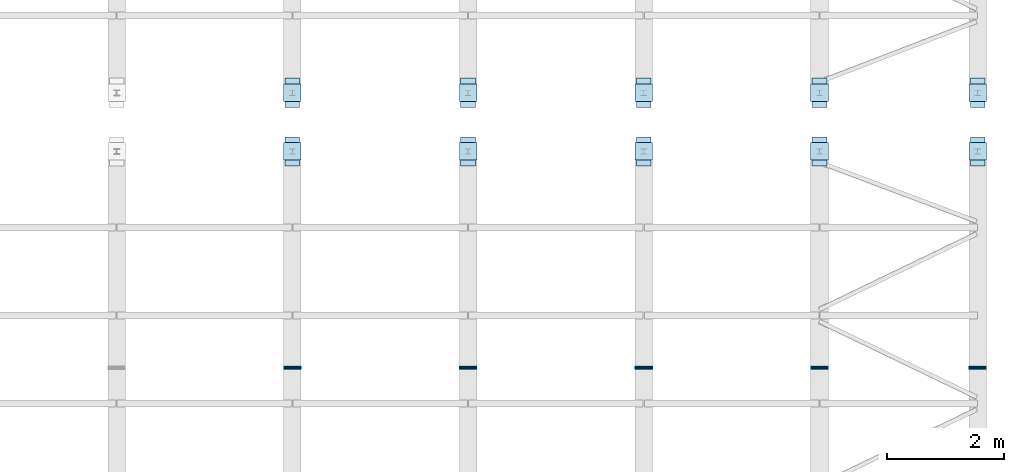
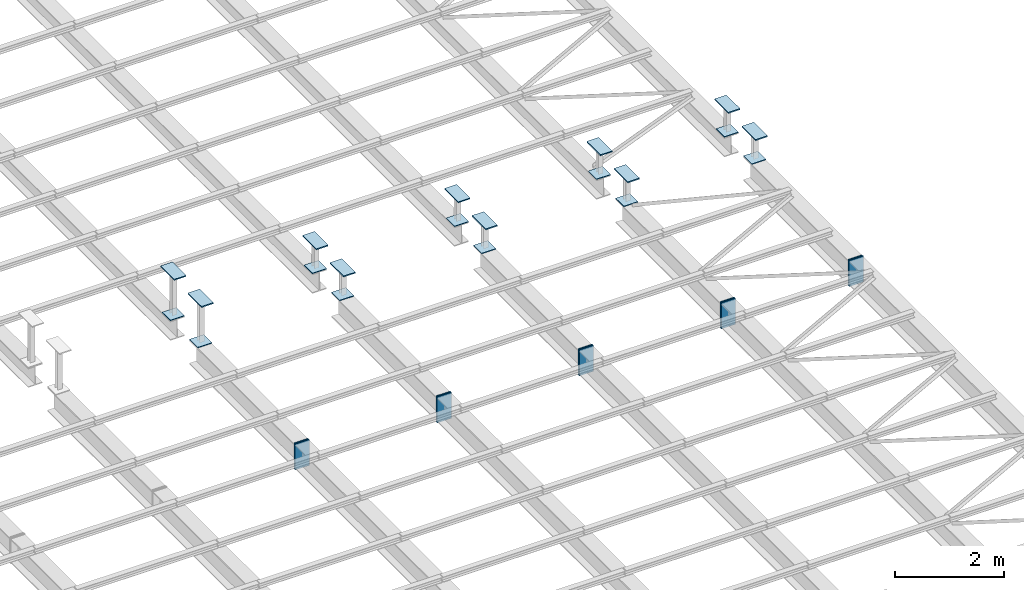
# One storey, part 135 of 139: 30 plates.
"""IFC2X3 building model written with IfcOpenShell, lengths in metres."""

import ifcopenshell
import ifcopenshell.guid

model = None  # the IFC model being written
_history = None  # IfcOwnerHistory: only IFC2X3 demands one
_inside = {}  # id of a spatial element -> (the spatial element, [elements in it])
_under = {}  # id of a project, library or spatial element -> (it, [spatial elements below it])
_declared = {}  # id of a project -> (the project, [libraries it declares])
_typed = {}  # id of a type object -> (the type object, [elements of that type])
_made_of = {}  # id of a material, layer set ... -> (it, [elements and type objects made of it])


def new_model(schema):
    """Start an empty IFC model of exactly this schema.

    Asked for "IFC4X3", IfcOpenShell would pick the latest addendum, in which some entities
    have other attributes; the version numbers below select the first issue.
    IFC2X3 requires an IfcOwnerHistory on every rooted entity: one is made here for all.
    """
    global model, _history
    if schema == "IFC4X3":
        model = ifcopenshell.file(schema_version=(4, 3, 0, 0))
    else:
        model = ifcopenshell.file(schema=schema)
    _inside.clear()
    _under.clear()
    _declared.clear()
    _typed.clear()
    _made_of.clear()
    _history = None
    if model.schema == "IFC2X3":
        org = make("IfcOrganization", Name="unknown")
        user = make(
            "IfcPersonAndOrganization",
            ThePerson=make("IfcPerson", FamilyName="unknown"),
            TheOrganization=org,
        )
        app = make(
            "IfcApplication",
            ApplicationDeveloper=org,
            Version="unknown",
            ApplicationFullName="unknown",
            ApplicationIdentifier="unknown",
        )
        _history = make(
            "IfcOwnerHistory",
            OwningUser=user,
            OwningApplication=app,
            ChangeAction="ADDED",
            CreationDate=0,
        )
    return model


def make(cls, **values):
    """One entity of the class cls with the attributes given. An attribute that is None is left unset."""
    return model.create_entity(
        cls, **{name: value for name, value in values.items() if value is not None}
    )


def entity(cls, *values):
    """Any entity or typed value of the class cls, its attributes in the order of the schema. None: left unset."""
    e = model.create_entity(cls)
    for i, value in enumerate(values):
        if value is not None:
            e[i] = value
    return e


def rooted(cls, **values):
    """An entity with a GlobalId (a new one), such as an element, a storey or a relation."""
    return make(cls, GlobalId=ifcopenshell.guid.new(), OwnerHistory=_history, **values)


def si_unit(unit_type, name, prefix=None):
    """IfcSIUnit, for example si_unit("LENGTHUNIT", "METRE", prefix="MILLI")."""
    return make("IfcSIUnit", UnitType=unit_type, Prefix=prefix, Name=name)


def converted_unit(unit_type, name, factor, base, dimensions=None, offset=None):
    """IfcConversionBasedUnit, such as the inch: factor (a typed value) times the base unit."""
    return make(
        "IfcConversionBasedUnit"
        if offset is None
        else "IfcConversionBasedUnitWithOffset",
        ConversionOffset=offset,
        Dimensions=None
        if dimensions is None
        else entity("IfcDimensionalExponents", *dimensions),
        UnitType=unit_type,
        Name=name,
        ConversionFactor=make(
            "IfcMeasureWithUnit", ValueComponent=factor, UnitComponent=base
        ),
    )


def derived_unit(unit_type, elements):
    """IfcDerivedUnit: a product of units, each with its exponent."""
    return make(
        "IfcDerivedUnit",
        Elements=[
            make("IfcDerivedUnitElement", Unit=unit, Exponent=power)
            for unit, power in elements
        ],
        UnitType=unit_type,
    )


def assignment(units):
    """IfcUnitAssignment: the units of a project."""
    return None if units is None else make("IfcUnitAssignment", Units=units)


def point(xyz):
    """IfcCartesianPoint."""
    return None if xyz is None else make("IfcCartesianPoint", Coordinates=xyz)


def direction(xyz):
    """IfcDirection."""
    return None if xyz is None else make("IfcDirection", DirectionRatios=xyz)


def frame(location, z_axis=None, x_axis=None):
    """IfcAxis2Placement3D, a coordinate frame: its origin and axes. An axis left out is left unset."""
    return make(
        "IfcAxis2Placement3D",
        Location=point(location),
        Axis=direction(z_axis),
        RefDirection=direction(x_axis),
    )


def origin():
    """The frame at (0, 0, 0) with its axes left unset."""
    return frame((0.0, 0.0, 0.0))


def place(relative_to, where):
    """IfcLocalPlacement: puts the frame where relative to a parent placement (None: the world)."""
    return make(
        "IfcLocalPlacement", PlacementRelTo=relative_to, RelativePlacement=where
    )


def context(
    kind, dimensions, precision=None, world=None, true_north=None, identifier=None
):
    """IfcGeometricRepresentationContext, for example the 3D "Model" context."""
    return make(
        "IfcGeometricRepresentationContext",
        ContextIdentifier=identifier,
        ContextType=kind,
        CoordinateSpaceDimension=dimensions,
        Precision=precision,
        WorldCoordinateSystem=world,
        TrueNorth=true_north,
    )


def subcontext(parent, identifier, kind, view, scale=None):
    """IfcGeometricRepresentationSubContext, for example "Body" below "Model"."""
    return make(
        "IfcGeometricRepresentationSubContext",
        ContextIdentifier=identifier,
        ContextType=kind,
        ParentContext=parent,
        TargetScale=scale,
        TargetView=view,
    )


def project(units=None, contexts=None):
    """IfcProject with its units and contexts."""
    return rooted(
        "IfcProject",
        Name="project",
        RepresentationContexts=contexts,
        UnitsInContext=assignment(units),
    )


def spatial(cls, under=None, at=None, **own):
    """A site, building, storey or space (cls), placed at a placement, below another one or the project."""
    s = rooted(cls, ObjectPlacement=at, **own)
    if under is not None:
        _under.setdefault(under.id(), (under, []))[1].append(s)
    return s


def faces_of(points, faces, orient=None, outer=None):
    """IfcFace entities. A face is a list of loops; a loop is a list of indices into points, from 0.

    orient and outer hold one flag for each loop. By default every Orientation is true, the
    first loop of a face is its IfcFaceOuterBound and the others are IfcFaceBound.
    """
    made = []
    for i, loops in enumerate(faces):
        bounds = []
        for j, loop in enumerate(loops):
            is_outer = j == 0 if outer is None else outer[i][j]
            bounds.append(
                make(
                    "IfcFaceOuterBound" if is_outer else "IfcFaceBound",
                    Bound=make("IfcPolyLoop", Polygon=[points[k] for k in loop]),
                    Orientation=True if orient is None else orient[i][j],
                )
            )
        made.append(make("IfcFace", Bounds=bounds))
    return made


def faceted_brep(points, faces, orient=None, outer=None, voids=None):
    """IfcFacetedBrep: a solid bounded by flat faces; with voids (closed shells), ...WithVoids."""
    shared = [point(p) for p in points]
    hull = make("IfcClosedShell", CfsFaces=faces_of(shared, faces, orient, outer))
    if voids is None:
        return make("IfcFacetedBrep", Outer=hull)
    return make(
        "IfcFacetedBrepWithVoids",
        Outer=hull,
        Voids=[
            make(cls, CfsFaces=faces_of(shared, fs, o, b)) for cls, fs, o, b in voids
        ],
    )


def shape(context_of_items, identifier, shape_type, items):
    """IfcShapeRepresentation: the items that make up one representation, for example the "Body"."""
    return make(
        "IfcShapeRepresentation",
        ContextOfItems=context_of_items,
        RepresentationIdentifier=identifier,
        RepresentationType=shape_type,
        Items=items,
    )


def material(Name=None, Category=None):
    """IfcMaterial."""
    return make("IfcMaterial", Name=Name, Category=Category)


def made_of(thing, what):
    """Note that an element or type object is made of a material, layer set ...; save() writes the relation."""
    if what is not None:
        _made_of.setdefault(what.id(), (what, []))[1].append(thing)
    return thing


def element(
    cls,
    number,
    at=None,
    inside=None,
    cuts=None,
    type_object=None,
    material=None,
    context=None,
    identifier="Body",
    shape_type=None,
    held_by="IfcProductDefinitionShape",
    body=None,
    shapes=None,
    **own,
):
    """One element of the class cls, such as IfcWall. Its Tag is "e" and its number.

    at: its placement. inside: the storey or other place that contains it. cuts: it is an
    opening in that element (IfcRelVoidsElement). A single representation is given by context,
    identifier, shape_type and body (its items); several are given by shapes. held_by: the class
    of the entity that holds the representations. save() writes the other relations.
    """
    e = rooted(cls, Tag="e%d" % number, ObjectPlacement=at, **own)
    if body is not None:
        shapes = [shape(context, identifier, shape_type, body)]
    if shapes is not None:
        e.Representation = make(held_by, Representations=shapes)
    if inside is not None:
        _inside.setdefault(inside.id(), (inside, []))[1].append(e)
    if cuts is not None:
        rooted(
            "IfcRelVoidsElement", RelatingBuildingElement=cuts, RelatedOpeningElement=e
        )
    if type_object is not None:
        _typed.setdefault(type_object.id(), (type_object, []))[1].append(e)
    return made_of(e, material)


def aggregate(whole, parts):
    """IfcRelAggregates: a whole, such as a stair, and the parts it consists of."""
    return rooted("IfcRelAggregates", RelatingObject=whole, RelatedObjects=parts)


def save(model, path):
    """Write the relations noted so far, then the file.

    IfcRelAggregates (storeys below a building ...), IfcRelContainedInSpatialStructure (elements
    in a storey), IfcRelDefinesByType, IfcRelAssociatesMaterial and IfcRelDeclares: one each for
    every whole, place, type object, material and project.
    """
    for whole, parts in _under.values():
        aggregate(whole, parts)
    for where, things in _inside.values():
        rooted(
            "IfcRelContainedInSpatialStructure",
            RelatedElements=things,
            RelatingStructure=where,
        )
    for kind, things in _typed.values():
        rooted("IfcRelDefinesByType", RelatedObjects=things, RelatingType=kind)
    for what, things in _made_of.values():
        rooted("IfcRelAssociatesMaterial", RelatedObjects=things, RelatingMaterial=what)
    for by, libraries in _declared.values():
        rooted("IfcRelDeclares", RelatingContext=by, RelatedDefinitions=libraries)
    model.write(path)


model = new_model("IFC2X3")

# Units and contexts
model_context = context("Model", 3, precision=1e-05, world=origin())
body_context = subcontext(model_context, "Body", "Model", "MODEL_VIEW")
ifc_project = project(units=[si_unit("LENGTHUNIT", "METRE"), si_unit("AREAUNIT", "SQUARE_METRE"), si_unit("VOLUMEUNIT", "CUBIC_METRE"), si_unit("MASSUNIT", "GRAM", prefix="KILO"), converted_unit("PLANEANGLEUNIT", "DEGREE", entity("IfcPlaneAngleMeasure", 0.0174532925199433), si_unit("PLANEANGLEUNIT", "RADIAN"), dimensions=[0, 0, 0, 0, 0, 0, 0]), derived_unit("THERMALTRANSMITTANCEUNIT", [(si_unit("POWERUNIT", "WATT"), 1), (si_unit("THERMODYNAMICTEMPERATUREUNIT", "KELVIN"), -1), (si_unit("LENGTHUNIT", "METRE"), -2)]), derived_unit("VOLUMETRICFLOWRATEUNIT", [(si_unit("LENGTHUNIT", "METRE"), 3), (converted_unit("TIMEUNIT", "hour", entity("IfcTimeMeasure", 3600.0), si_unit("TIMEUNIT", "SECOND"), dimensions=[0, 0, 1, 0, 0, 0, 0]), -1), (si_unit("LENGTHUNIT", "METRE"), -1)])], contexts=[model_context])

# Site, building, storey
site_placement = place(None, origin())
site = spatial("IfcSite", under=ifc_project, at=site_placement, Name="TWP_Speiseverteilzentrum SBW VZ II", CompositionType="ELEMENT")
building_placement = place(site_placement, origin())
building = spatial("IfcBuilding", under=site, at=building_placement, Name="Speiseverteilzentrum SBW VZ II", CompositionType="ELEMENT")
storey_placement = place(building_placement, frame((0.0, 0.0, 7.1307)))
storey = spatial("IfcBuildingStorey", under=building, at=storey_placement, Name="Wartung_FFB", CompositionType="ELEMENT", Elevation=7.1307)

# Plates
ifc_material_1 = material(Name="S355")
plate_1_placement = place(storey_placement, frame((120.600000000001, 66.1852526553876, -0.75)))
element("IfcPlate", 1, at=plate_1_placement, inside=storey, material=ifc_material_1, Name="Stirnplatte", context=body_context, shape_type="Brep", body=[
    faceted_brep([(0.0, 0.025, 0.0), (0.3, 0.025, 0.0), (0.3, 0.025, 0.58), (0.0, 0.025, 0.58), (0.3, 0.0, 0.0), (0.3, 0.0, 0.58), (0.0, 0.0, 0.0), (0.0, 0.0, 0.58)], [[[0, 1, 2, 3]], [[1, 4, 5, 2]], [[4, 6, 7, 5]], [[6, 0, 3, 7]], [[7, 3, 2, 5]], [[0, 6, 4, 1]]], orient=[[False], [False], [False], [False], [False], [False]]),
])
ifc_material_2 = material(Name="S355")
plate_2_placement = place(storey_placement, frame((120.600000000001, 66.2102526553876, -0.75)))
element("IfcPlate", 2, at=plate_2_placement, inside=storey, material=ifc_material_2, Name="Stirnplatte", context=body_context, shape_type="Brep", body=[
    faceted_brep([(0.0, 0.025, 0.0), (0.3, 0.025, 0.0), (0.3, 0.025, 0.58), (0.0, 0.025, 0.58), (0.3, 0.0, 0.0), (0.3, 0.0, 0.58), (0.0, 0.0, 0.0), (0.0, 0.0, 0.58)], [[[0, 1, 2, 3]], [[1, 4, 5, 2]], [[4, 6, 7, 5]], [[6, 0, 3, 7]], [[7, 3, 2, 5]], [[0, 6, 4, 1]]], orient=[[False], [False], [False], [False], [False], [False]]),
])
ifc_material_3 = material(Name="S355")
plate_3_placement = place(storey_placement, frame((117.900000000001, 66.1852526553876, -0.75)))
element("IfcPlate", 3, at=plate_3_placement, inside=storey, material=ifc_material_3, Name="Stirnplatte", context=body_context, shape_type="Brep", body=[
    faceted_brep([(0.0, 0.025, 0.0), (0.3, 0.025, 0.0), (0.3, 0.025, 0.58), (0.0, 0.025, 0.58), (0.3, 0.0, 0.0), (0.3, 0.0, 0.58), (0.0, 0.0, 0.0), (0.0, 0.0, 0.58)], [[[0, 1, 2, 3]], [[1, 4, 5, 2]], [[4, 6, 7, 5]], [[6, 0, 3, 7]], [[7, 3, 2, 5]], [[0, 6, 4, 1]]], orient=[[False], [False], [False], [False], [False], [False]]),
])
ifc_material_4 = material(Name="S355")
plate_4_placement = place(storey_placement, frame((117.900000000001, 66.2102526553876, -0.75)))
element("IfcPlate", 4, at=plate_4_placement, inside=storey, material=ifc_material_4, Name="Stirnplatte", context=body_context, shape_type="Brep", body=[
    faceted_brep([(0.0, 0.025, 0.0), (0.3, 0.025, 0.0), (0.3, 0.025, 0.58), (0.0, 0.025, 0.58), (0.3, 0.0, 0.0), (0.3, 0.0, 0.58), (0.0, 0.0, 0.0), (0.0, 0.0, 0.58)], [[[0, 1, 2, 3]], [[1, 4, 5, 2]], [[4, 6, 7, 5]], [[6, 0, 3, 7]], [[7, 3, 2, 5]], [[0, 6, 4, 1]]], orient=[[False], [False], [False], [False], [False], [False]]),
])
ifc_material_5 = material(Name="S355")
plate_5_placement = place(storey_placement, frame((114.900000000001, 66.1852526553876, -0.75)))
element("IfcPlate", 5, at=plate_5_placement, inside=storey, material=ifc_material_5, Name="Stirnplatte", context=body_context, shape_type="Brep", body=[
    faceted_brep([(0.0, 0.025, 0.0), (0.3, 0.025, 0.0), (0.3, 0.025, 0.58), (0.0, 0.025, 0.58), (0.3, 0.0, 0.0), (0.3, 0.0, 0.58), (0.0, 0.0, 0.0), (0.0, 0.0, 0.58)], [[[0, 1, 2, 3]], [[1, 4, 5, 2]], [[4, 6, 7, 5]], [[6, 0, 3, 7]], [[7, 3, 2, 5]], [[0, 6, 4, 1]]], orient=[[False], [False], [False], [False], [False], [False]]),
])
ifc_material_6 = material(Name="S355")
plate_6_placement = place(storey_placement, frame((114.900000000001, 66.2102526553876, -0.75)))
element("IfcPlate", 6, at=plate_6_placement, inside=storey, material=ifc_material_6, Name="Stirnplatte", context=body_context, shape_type="Brep", body=[
    faceted_brep([(0.0, 0.025, 0.0), (0.3, 0.025, 0.0), (0.3, 0.025, 0.58), (0.0, 0.025, 0.58), (0.3, 0.0, 0.0), (0.3, 0.0, 0.58), (0.0, 0.0, 0.0), (0.0, 0.0, 0.58)], [[[0, 1, 2, 3]], [[1, 4, 5, 2]], [[4, 6, 7, 5]], [[6, 0, 3, 7]], [[7, 3, 2, 5]], [[0, 6, 4, 1]]], orient=[[False], [False], [False], [False], [False], [False]]),
])
ifc_material_7 = material(Name="S355")
plate_7_placement = place(storey_placement, frame((111.900000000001, 66.1852526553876, -0.75)))
element("IfcPlate", 7, at=plate_7_placement, inside=storey, material=ifc_material_7, Name="Stirnplatte", context=body_context, shape_type="Brep", body=[
    faceted_brep([(0.0, 0.025, 0.0), (0.3, 0.025, 0.0), (0.3, 0.025, 0.58), (0.0, 0.025, 0.58), (0.3, 0.0, 0.0), (0.3, 0.0, 0.58), (0.0, 0.0, 0.0), (0.0, 0.0, 0.58)], [[[0, 1, 2, 3]], [[1, 4, 5, 2]], [[4, 6, 7, 5]], [[6, 0, 3, 7]], [[7, 3, 2, 5]], [[0, 6, 4, 1]]], orient=[[False], [False], [False], [False], [False], [False]]),
])
ifc_material_8 = material(Name="S355")
plate_8_placement = place(storey_placement, frame((111.900000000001, 66.2102526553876, -0.75)))
element("IfcPlate", 8, at=plate_8_placement, inside=storey, material=ifc_material_8, Name="Stirnplatte", context=body_context, shape_type="Brep", body=[
    faceted_brep([(0.0, 0.025, 0.0), (0.3, 0.025, 0.0), (0.3, 0.025, 0.58), (0.0, 0.025, 0.58), (0.3, 0.0, 0.0), (0.3, 0.0, 0.58), (0.0, 0.0, 0.0), (0.0, 0.0, 0.58)], [[[0, 1, 2, 3]], [[1, 4, 5, 2]], [[4, 6, 7, 5]], [[6, 0, 3, 7]], [[7, 3, 2, 5]], [[0, 6, 4, 1]]], orient=[[False], [False], [False], [False], [False], [False]]),
])
ifc_material_9 = material(Name="S355")
plate_9_placement = place(storey_placement, frame((108.900000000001, 66.1852526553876, -0.75)))
element("IfcPlate", 9, at=plate_9_placement, inside=storey, material=ifc_material_9, Name="Stirnplatte", context=body_context, shape_type="Brep", body=[
    faceted_brep([(0.0, 0.025, 0.0), (0.3, 0.025, 0.0), (0.3, 0.025, 0.58), (0.0, 0.025, 0.58), (0.3, 0.0, 0.0), (0.3, 0.0, 0.58), (0.0, 0.0, 0.0), (0.0, 0.0, 0.58)], [[[0, 1, 2, 3]], [[1, 4, 5, 2]], [[4, 6, 7, 5]], [[6, 0, 3, 7]], [[7, 3, 2, 5]], [[0, 6, 4, 1]]], orient=[[False], [False], [False], [False], [False], [False]]),
])
ifc_material_10 = material(Name="S355")
plate_10_placement = place(storey_placement, frame((108.900000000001, 66.2102526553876, -0.75)))
element("IfcPlate", 10, at=plate_10_placement, inside=storey, material=ifc_material_10, Name="Stirnplatte", context=body_context, shape_type="Brep", body=[
    faceted_brep([(0.0, 0.025, 0.0), (0.3, 0.025, 0.0), (0.3, 0.025, 0.58), (0.0, 0.025, 0.58), (0.3, 0.0, 0.0), (0.3, 0.0, 0.58), (0.0, 0.0, 0.0), (0.0, 0.0, 0.58)], [[[0, 1, 2, 3]], [[1, 4, 5, 2]], [[4, 6, 7, 5]], [[6, 0, 3, 7]], [[7, 3, 2, 5]], [[0, 6, 4, 1]]], orient=[[False], [False], [False], [False], [False], [False]]),
])
ifc_material_11 = material(Name="S235")
plate_11_placement = place(storey_placement, frame((108.900000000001, 69.7522526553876, -0.189999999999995)))
element("IfcPlate", 11, at=plate_11_placement, inside=storey, material=ifc_material_11, Name="Verbindungsstück", context=body_context, shape_type="Brep", body=[
    faceted_brep([(0.0, 0.0, 0.015), (0.0, 0.0, 0.0), (0.0, 0.3, 0.0), (0.0, 0.3, 0.015), (0.3, 0.0, 0.015), (0.3, 0.0, 0.0), (0.3, 0.3, 0.015), (0.3, 0.3, 0.0)], [[[0, 1, 2, 3]], [[0, 4, 5, 1]], [[4, 6, 7, 5]], [[6, 3, 2, 7]], [[6, 4, 0, 3]], [[2, 1, 5, 7]]], orient=[[False], [False], [False], [False], [False], [False]]),
])
ifc_material_12 = material(Name="S235")
plate_12_placement = place(storey_placement, frame((111.900000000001, 69.7522526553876, -0.189999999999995)))
element("IfcPlate", 12, at=plate_12_placement, inside=storey, material=ifc_material_12, Name="Verbindungsstück", context=body_context, shape_type="Brep", body=[
    faceted_brep([(0.0, 0.0, 0.015), (0.0, 0.0, 0.0), (0.0, 0.3, 0.0), (0.0, 0.3, 0.015), (0.3, 0.0, 0.015), (0.3, 0.0, 0.0), (0.3, 0.3, 0.015), (0.3, 0.3, 0.0)], [[[0, 1, 2, 3]], [[0, 4, 5, 1]], [[4, 6, 7, 5]], [[6, 3, 2, 7]], [[6, 4, 0, 3]], [[2, 1, 5, 7]]], orient=[[False], [False], [False], [False], [False], [False]]),
])
ifc_material_13 = material(Name="S235")
plate_13_placement = place(storey_placement, frame((114.900000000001, 69.7522526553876, -0.189999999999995)))
element("IfcPlate", 13, at=plate_13_placement, inside=storey, material=ifc_material_13, Name="Verbindungsstück", context=body_context, shape_type="Brep", body=[
    faceted_brep([(0.0, 0.0, 0.015), (0.0, 0.0, 0.0), (0.0, 0.3, 0.0), (0.0, 0.3, 0.015), (0.3, 0.0, 0.015), (0.3, 0.0, 0.0), (0.3, 0.3, 0.015), (0.3, 0.3, 0.0)], [[[0, 1, 2, 3]], [[0, 4, 5, 1]], [[4, 6, 7, 5]], [[6, 3, 2, 7]], [[6, 4, 0, 3]], [[2, 1, 5, 7]]], orient=[[False], [False], [False], [False], [False], [False]]),
])
ifc_material_14 = material(Name="S235")
plate_14_placement = place(storey_placement, frame((117.900000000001, 69.7522526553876, -0.189999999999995)))
element("IfcPlate", 14, at=plate_14_placement, inside=storey, material=ifc_material_14, Name="Verbindungsstück", context=body_context, shape_type="Brep", body=[
    faceted_brep([(0.0, 0.0, 0.015), (0.0, 0.0, 0.0), (0.0, 0.3, 0.0), (0.0, 0.3, 0.015), (0.3, 0.0, 0.015), (0.3, 0.0, 0.0), (0.3, 0.3, 0.015), (0.3, 0.3, 0.0)], [[[0, 1, 2, 3]], [[0, 4, 5, 1]], [[4, 6, 7, 5]], [[6, 3, 2, 7]], [[6, 4, 0, 3]], [[2, 1, 5, 7]]], orient=[[False], [False], [False], [False], [False], [False]]),
])
ifc_material_15 = material(Name="S235")
plate_15_placement = place(storey_placement, frame((108.900000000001, 70.7522526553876, -0.19)))
element("IfcPlate", 15, at=plate_15_placement, inside=storey, material=ifc_material_15, Name="Verbindungsstück", context=body_context, shape_type="Brep", body=[
    faceted_brep([(0.0, 0.0, 0.015), (0.0, 0.0, 0.0), (0.0, 0.3, 0.0), (0.0, 0.3, 0.015), (0.3, 0.0, 0.015), (0.3, 0.0, 0.0), (0.3, 0.3, 0.015), (0.3, 0.3, 0.0)], [[[0, 1, 2, 3]], [[0, 4, 5, 1]], [[4, 6, 7, 5]], [[6, 3, 2, 7]], [[6, 4, 0, 3]], [[2, 1, 5, 7]]], orient=[[False], [False], [False], [False], [False], [False]]),
])
ifc_material_16 = material(Name="S235")
plate_16_placement = place(storey_placement, frame((111.900000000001, 70.7522526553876, -0.19)))
element("IfcPlate", 16, at=plate_16_placement, inside=storey, material=ifc_material_16, Name="Verbindungsstück", context=body_context, shape_type="Brep", body=[
    faceted_brep([(0.0, 0.0, 0.015), (0.0, 0.0, 0.0), (0.0, 0.3, 0.0), (0.0, 0.3, 0.015), (0.3, 0.0, 0.015), (0.3, 0.0, 0.0), (0.3, 0.3, 0.015), (0.3, 0.3, 0.0)], [[[0, 1, 2, 3]], [[0, 4, 5, 1]], [[4, 6, 7, 5]], [[6, 3, 2, 7]], [[6, 4, 0, 3]], [[2, 1, 5, 7]]], orient=[[False], [False], [False], [False], [False], [False]]),
])
ifc_material_17 = material(Name="S235")
plate_17_placement = place(storey_placement, frame((114.900000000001, 70.7522526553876, -0.19)))
element("IfcPlate", 17, at=plate_17_placement, inside=storey, material=ifc_material_17, Name="Verbindungsstück", context=body_context, shape_type="Brep", body=[
    faceted_brep([(0.0, 0.0, 0.015), (0.0, 0.0, 0.0), (0.0, 0.3, 0.0), (0.0, 0.3, 0.015), (0.3, 0.0, 0.015), (0.3, 0.0, 0.0), (0.3, 0.3, 0.015), (0.3, 0.3, 0.0)], [[[0, 1, 2, 3]], [[0, 4, 5, 1]], [[4, 6, 7, 5]], [[6, 3, 2, 7]], [[6, 4, 0, 3]], [[2, 1, 5, 7]]], orient=[[False], [False], [False], [False], [False], [False]]),
])
ifc_material_18 = material(Name="S235")
plate_18_placement = place(storey_placement, frame((117.900000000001, 70.7522526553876, -0.19)))
element("IfcPlate", 18, at=plate_18_placement, inside=storey, material=ifc_material_18, Name="Verbindungsstück", context=body_context, shape_type="Brep", body=[
    faceted_brep([(0.0, 0.0, 0.015), (0.0, 0.0, 0.0), (0.0, 0.3, 0.0), (0.0, 0.3, 0.015), (0.3, 0.0, 0.015), (0.3, 0.0, 0.0), (0.3, 0.3, 0.015), (0.3, 0.3, 0.0)], [[[0, 1, 2, 3]], [[0, 4, 5, 1]], [[4, 6, 7, 5]], [[6, 3, 2, 7]], [[6, 4, 0, 3]], [[2, 1, 5, 7]]], orient=[[False], [False], [False], [False], [False], [False]]),
])
ifc_material_19 = material(Name="S235")
plate_19_placement = place(storey_placement, frame((108.925000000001, 70.6522526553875, 0.764299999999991)))
element("IfcPlate", 19, at=plate_19_placement, inside=storey, material=ifc_material_19, Name="Verbindungsstück", context=body_context, shape_type="Brep", body=[
    faceted_brep([(0.0, 0.0, 0.025), (0.0, 0.0, 0.0), (0.0, 0.5, 0.0), (0.0, 0.5, 0.025), (0.25, 0.0, 0.025), (0.25, 0.0, 0.0), (0.25, 0.5, 0.025), (0.25, 0.5, 0.0)], [[[0, 1, 2, 3]], [[0, 4, 5, 1]], [[4, 6, 7, 5]], [[6, 3, 2, 7]], [[6, 4, 0, 3]], [[2, 1, 5, 7]]], orient=[[False], [False], [False], [False], [False], [False]]),
])
ifc_material_20 = material(Name="S235")
plate_20_placement = place(storey_placement, frame((108.925000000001, 69.6522526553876, 0.764299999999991)))
element("IfcPlate", 20, at=plate_20_placement, inside=storey, material=ifc_material_20, Name="Verbindungsstück", context=body_context, shape_type="Brep", body=[
    faceted_brep([(0.0, 0.0, 0.025), (0.0, 0.0, 0.0), (0.0, 0.5, 0.0), (0.0, 0.5, 0.025), (0.25, 0.0, 0.025), (0.25, 0.0, 0.0), (0.25, 0.5, 0.025), (0.25, 0.5, 0.0)], [[[0, 1, 2, 3]], [[0, 4, 5, 1]], [[4, 6, 7, 5]], [[6, 3, 2, 7]], [[6, 4, 0, 3]], [[2, 1, 5, 7]]], orient=[[False], [False], [False], [False], [False], [False]]),
])
ifc_material_21 = material(Name="S235")
plate_21_placement = place(storey_placement, frame((117.925000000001, 70.6522526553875, 0.394299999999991)))
element("IfcPlate", 21, at=plate_21_placement, inside=storey, material=ifc_material_21, Name="Verbindungsstück", context=body_context, shape_type="Brep", body=[
    faceted_brep([(0.0, 0.0, 0.025), (0.0, 0.0, 0.0), (0.0, 0.5, 0.0), (0.0, 0.5, 0.025), (0.25, 0.0, 0.025), (0.25, 0.0, 0.0), (0.25, 0.5, 0.025), (0.25, 0.5, 0.0)], [[[0, 1, 2, 3]], [[0, 4, 5, 1]], [[4, 6, 7, 5]], [[6, 3, 2, 7]], [[6, 4, 0, 3]], [[2, 1, 5, 7]]], orient=[[False], [False], [False], [False], [False], [False]]),
])
ifc_material_22 = material(Name="S235")
plate_22_placement = place(storey_placement, frame((114.925000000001, 70.6522526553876, 0.394299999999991)))
element("IfcPlate", 22, at=plate_22_placement, inside=storey, material=ifc_material_22, Name="Verbindungsstück", context=body_context, shape_type="Brep", body=[
    faceted_brep([(0.0, 0.0, 0.025), (0.0, 0.0, 0.0), (0.0, 0.5, 0.0), (0.0, 0.5, 0.025), (0.25, 0.0, 0.025), (0.25, 0.0, 0.0), (0.25, 0.5, 0.025), (0.25, 0.5, 0.0)], [[[0, 1, 2, 3]], [[0, 4, 5, 1]], [[4, 6, 7, 5]], [[6, 3, 2, 7]], [[6, 4, 0, 3]], [[2, 1, 5, 7]]], orient=[[False], [False], [False], [False], [False], [False]]),
])
ifc_material_23 = material(Name="S235")
plate_23_placement = place(storey_placement, frame((111.925000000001, 70.6522526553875, 0.394299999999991)))
element("IfcPlate", 23, at=plate_23_placement, inside=storey, material=ifc_material_23, Name="Verbindungsstück", context=body_context, shape_type="Brep", body=[
    faceted_brep([(0.0, 0.0, 0.025), (0.0, 0.0, 0.0), (0.0, 0.5, 0.0), (0.0, 0.5, 0.025), (0.25, 0.0, 0.025), (0.25, 0.0, 0.0), (0.25, 0.5, 0.025), (0.25, 0.5, 0.0)], [[[0, 1, 2, 3]], [[0, 4, 5, 1]], [[4, 6, 7, 5]], [[6, 3, 2, 7]], [[6, 4, 0, 3]], [[2, 1, 5, 7]]], orient=[[False], [False], [False], [False], [False], [False]]),
])
ifc_material_24 = material(Name="S235")
plate_24_placement = place(storey_placement, frame((111.925000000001, 69.6522526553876, 0.394299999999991)))
element("IfcPlate", 24, at=plate_24_placement, inside=storey, material=ifc_material_24, Name="Verbindungsstück", context=body_context, shape_type="Brep", body=[
    faceted_brep([(0.0, 0.0, 0.025), (0.0, 0.0, 0.0), (0.0, 0.5, 0.0), (0.0, 0.5, 0.025), (0.25, 0.0, 0.025), (0.25, 0.0, 0.0), (0.25, 0.5, 0.025), (0.25, 0.5, 0.0)], [[[0, 1, 2, 3]], [[0, 4, 5, 1]], [[4, 6, 7, 5]], [[6, 3, 2, 7]], [[6, 4, 0, 3]], [[2, 1, 5, 7]]], orient=[[False], [False], [False], [False], [False], [False]]),
])
ifc_material_25 = material(Name="S235")
plate_25_placement = place(storey_placement, frame((117.925000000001, 69.6522526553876, 0.394299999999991)))
element("IfcPlate", 25, at=plate_25_placement, inside=storey, material=ifc_material_25, Name="Verbindungsstück", context=body_context, shape_type="Brep", body=[
    faceted_brep([(0.0, 0.0, 0.025), (0.0, 0.0, 0.0), (0.0, 0.5, 0.0), (0.0, 0.5, 0.025), (0.25, 0.0, 0.025), (0.25, 0.0, 0.0), (0.25, 0.5, 0.025), (0.25, 0.5, 0.0)], [[[0, 1, 2, 3]], [[0, 4, 5, 1]], [[4, 6, 7, 5]], [[6, 3, 2, 7]], [[6, 4, 0, 3]], [[2, 1, 5, 7]]], orient=[[False], [False], [False], [False], [False], [False]]),
])
ifc_material_26 = material(Name="S235")
plate_26_placement = place(storey_placement, frame((114.925000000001, 69.6522526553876, 0.394299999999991)))
element("IfcPlate", 26, at=plate_26_placement, inside=storey, material=ifc_material_26, Name="Verbindungsstück", context=body_context, shape_type="Brep", body=[
    faceted_brep([(0.0, 0.0, 0.025), (0.0, 0.0, 0.0), (0.0, 0.5, 0.0), (0.0, 0.5, 0.025), (0.25, 0.0, 0.025), (0.25, 0.0, 0.0), (0.25, 0.5, 0.025), (0.25, 0.5, 0.0)], [[[0, 1, 2, 3]], [[0, 4, 5, 1]], [[4, 6, 7, 5]], [[6, 3, 2, 7]], [[6, 4, 0, 3]], [[2, 1, 5, 7]]], orient=[[False], [False], [False], [False], [False], [False]]),
])
ifc_material_27 = material(Name="S235")
plate_27_placement = place(storey_placement, frame((120.600000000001, 69.7522526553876, -0.189999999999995)))
element("IfcPlate", 27, at=plate_27_placement, inside=storey, material=ifc_material_27, Name="Verbindungsstück", context=body_context, shape_type="Brep", body=[
    faceted_brep([(0.0, 0.0, 0.015), (0.0, 0.0, 0.0), (0.0, 0.3, 0.0), (0.0, 0.3, 0.015), (0.3, 0.0, 0.015), (0.3, 0.0, 0.0), (0.3, 0.3, 0.015), (0.3, 0.3, 0.0)], [[[0, 1, 2, 3]], [[0, 4, 5, 1]], [[4, 6, 7, 5]], [[6, 3, 2, 7]], [[6, 4, 0, 3]], [[2, 1, 5, 7]]], orient=[[False], [False], [False], [False], [False], [False]]),
])
ifc_material_28 = material(Name="S235")
plate_28_placement = place(storey_placement, frame((120.600000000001, 70.7522526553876, -0.19)))
element("IfcPlate", 28, at=plate_28_placement, inside=storey, material=ifc_material_28, Name="Verbindungsstück", context=body_context, shape_type="Brep", body=[
    faceted_brep([(0.0, 0.0, 0.015), (0.0, 0.0, 0.0), (0.0, 0.3, 0.0), (0.0, 0.3, 0.015), (0.3, 0.0, 0.015), (0.3, 0.0, 0.0), (0.3, 0.3, 0.015), (0.3, 0.3, 0.0)], [[[0, 1, 2, 3]], [[0, 4, 5, 1]], [[4, 6, 7, 5]], [[6, 3, 2, 7]], [[6, 4, 0, 3]], [[2, 1, 5, 7]]], orient=[[False], [False], [False], [False], [False], [False]]),
])
ifc_material_29 = material(Name="S235")
plate_29_placement = place(storey_placement, frame((120.625000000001, 70.6522526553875, 0.394299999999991)))
element("IfcPlate", 29, at=plate_29_placement, inside=storey, material=ifc_material_29, Name="Verbindungsstück", context=body_context, shape_type="Brep", body=[
    faceted_brep([(0.0, 0.0, 0.025), (0.0, 0.0, 0.0), (0.0, 0.5, 0.0), (0.0, 0.5, 0.025), (0.25, 0.0, 0.025), (0.25, 0.0, 0.0), (0.25, 0.5, 0.025), (0.25, 0.5, 0.0)], [[[0, 1, 2, 3]], [[0, 4, 5, 1]], [[4, 6, 7, 5]], [[6, 3, 2, 7]], [[6, 4, 0, 3]], [[2, 1, 5, 7]]], orient=[[False], [False], [False], [False], [False], [False]]),
])
ifc_material_30 = material(Name="S235")
plate_30_placement = place(storey_placement, frame((120.625000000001, 69.6522526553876, 0.394299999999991)))
element("IfcPlate", 30, at=plate_30_placement, inside=storey, material=ifc_material_30, Name="Verbindungsstück", context=body_context, shape_type="Brep", body=[
    faceted_brep([(0.0, 0.0, 0.025), (0.0, 0.0, 0.0), (0.0, 0.5, 0.0), (0.0, 0.5, 0.025), (0.25, 0.0, 0.025), (0.25, 0.0, 0.0), (0.25, 0.5, 0.025), (0.25, 0.5, 0.0)], [[[0, 1, 2, 3]], [[0, 4, 5, 1]], [[4, 6, 7, 5]], [[6, 3, 2, 7]], [[6, 4, 0, 3]], [[2, 1, 5, 7]]], orient=[[False], [False], [False], [False], [False], [False]]),
])

save(model, "model.ifc")
